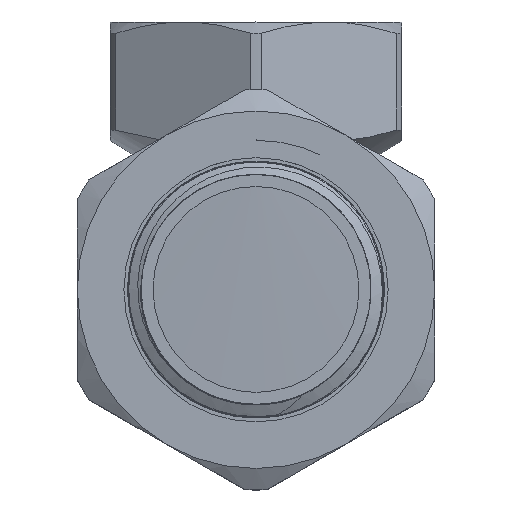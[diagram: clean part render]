
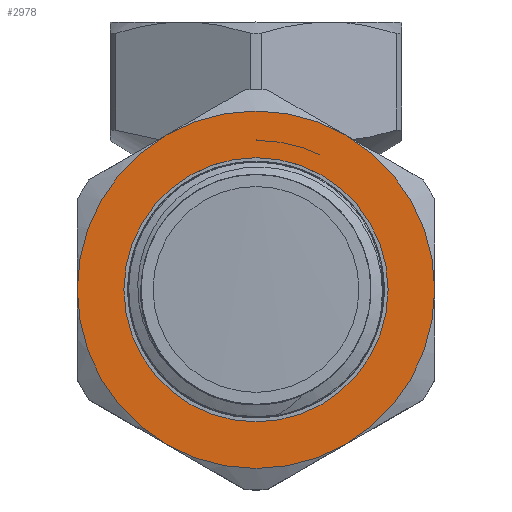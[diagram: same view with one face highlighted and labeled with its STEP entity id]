
A CAD part, top view. The second image highlights one B-rep face of the part: STEP entity #2978.
In plain terms, the highlighted planar face has unit normal (0, 0, 1).
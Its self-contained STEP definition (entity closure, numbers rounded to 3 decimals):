
#87=FACE_BOUND('',#663,.T.);
#137=PLANE('',#3317);
#292=CIRCLE('',#3269,23.);
#294=CIRCLE('',#3272,23.);
#296=CIRCLE('',#3275,23.);
#297=CIRCLE('',#3277,23.);
#299=CIRCLE('',#3280,23.);
#301=CIRCLE('',#3283,23.);
#317=CIRCLE('',#3318,17.);
#318=CIRCLE('',#3319,17.);
#482=FACE_OUTER_BOUND('',#662,.T.);
#662=EDGE_LOOP('',(#2740,#2741,#2742,#2743,#2744,#2745));
#663=EDGE_LOOP('',(#2746,#2747));
#1354=VERTEX_POINT('',#14983);
#1356=VERTEX_POINT('',#14989);
#1358=VERTEX_POINT('',#14996);
#1361=VERTEX_POINT('',#15008);
#1364=VERTEX_POINT('',#15023);
#1367=VERTEX_POINT('',#15035);
#1402=VERTEX_POINT('',#18127);
#1403=VERTEX_POINT('',#18128);
#1775=EDGE_CURVE('',#1354,#1356,#292,.T.);
#1779=EDGE_CURVE('',#1358,#1354,#294,.T.);
#1783=EDGE_CURVE('',#1361,#1358,#296,.T.);
#1785=EDGE_CURVE('',#1364,#1361,#297,.T.);
#1789=EDGE_CURVE('',#1367,#1364,#299,.T.);
#1793=EDGE_CURVE('',#1356,#1367,#301,.T.);
#1851=EDGE_CURVE('',#1402,#1403,#317,.T.);
#1852=EDGE_CURVE('',#1403,#1402,#318,.T.);
#2740=ORIENTED_EDGE('',*,*,#1793,.T.);
#2741=ORIENTED_EDGE('',*,*,#1789,.T.);
#2742=ORIENTED_EDGE('',*,*,#1785,.T.);
#2743=ORIENTED_EDGE('',*,*,#1783,.T.);
#2744=ORIENTED_EDGE('',*,*,#1779,.T.);
#2745=ORIENTED_EDGE('',*,*,#1775,.T.);
#2746=ORIENTED_EDGE('',*,*,#1851,.F.);
#2747=ORIENTED_EDGE('',*,*,#1852,.F.);
#2978=ADVANCED_FACE('',(#482,#87),#137,.T.);
#3269=AXIS2_PLACEMENT_3D('',#14993,#3885,#3886);
#3272=AXIS2_PLACEMENT_3D('',#15005,#3891,#3892);
#3275=AXIS2_PLACEMENT_3D('',#15017,#3897,#3898);
#3277=AXIS2_PLACEMENT_3D('',#15024,#3901,#3902);
#3280=AXIS2_PLACEMENT_3D('',#15036,#3907,#3908);
#3283=AXIS2_PLACEMENT_3D('',#15047,#3913,#3914);
#3317=AXIS2_PLACEMENT_3D('',#18126,#4004,#4005);
#3318=AXIS2_PLACEMENT_3D('',#18129,#4006,#4007);
#3319=AXIS2_PLACEMENT_3D('',#18130,#4008,#4009);
#3885=DIRECTION('center_axis',(0.,0.,1.));
#3886=DIRECTION('ref_axis',(0.,1.,0.));
#3891=DIRECTION('center_axis',(0.,0.,1.));
#3892=DIRECTION('ref_axis',(0.,1.,0.));
#3897=DIRECTION('center_axis',(0.,0.,1.));
#3898=DIRECTION('ref_axis',(0.,1.,0.));
#3901=DIRECTION('center_axis',(0.,0.,1.));
#3902=DIRECTION('ref_axis',(0.,1.,0.));
#3907=DIRECTION('center_axis',(0.,0.,1.));
#3908=DIRECTION('ref_axis',(0.,1.,0.));
#3913=DIRECTION('center_axis',(0.,0.,1.));
#3914=DIRECTION('ref_axis',(0.,1.,0.));
#4004=DIRECTION('center_axis',(0.,0.,1.));
#4005=DIRECTION('ref_axis',(1.,0.,0.));
#4006=DIRECTION('center_axis',(0.,0.,1.));
#4007=DIRECTION('ref_axis',(1.,0.,0.));
#4008=DIRECTION('center_axis',(0.,0.,1.));
#4009=DIRECTION('ref_axis',(1.,0.,0.));
#14983=CARTESIAN_POINT('',(11.5,19.919,15.));
#14989=CARTESIAN_POINT('',(-11.5,19.919,15.));
#14993=CARTESIAN_POINT('Origin',(0.,0.,15.));
#14996=CARTESIAN_POINT('',(23.,0.,15.));
#15005=CARTESIAN_POINT('Origin',(0.,0.,15.));
#15008=CARTESIAN_POINT('',(11.5,-19.919,15.));
#15017=CARTESIAN_POINT('Origin',(0.,0.,15.));
#15023=CARTESIAN_POINT('',(-11.5,-19.919,15.));
#15024=CARTESIAN_POINT('Origin',(0.,0.,15.));
#15035=CARTESIAN_POINT('',(-23.,0.,15.));
#15036=CARTESIAN_POINT('Origin',(0.,0.,15.));
#15047=CARTESIAN_POINT('Origin',(0.,0.,15.));
#18126=CARTESIAN_POINT('Origin',(0.,-17.,15.));
#18127=CARTESIAN_POINT('',(0.,-17.,15.));
#18128=CARTESIAN_POINT('',(0.,17.,15.));
#18129=CARTESIAN_POINT('Origin',(0.,0.,15.));
#18130=CARTESIAN_POINT('Origin',(0.,0.,15.));
